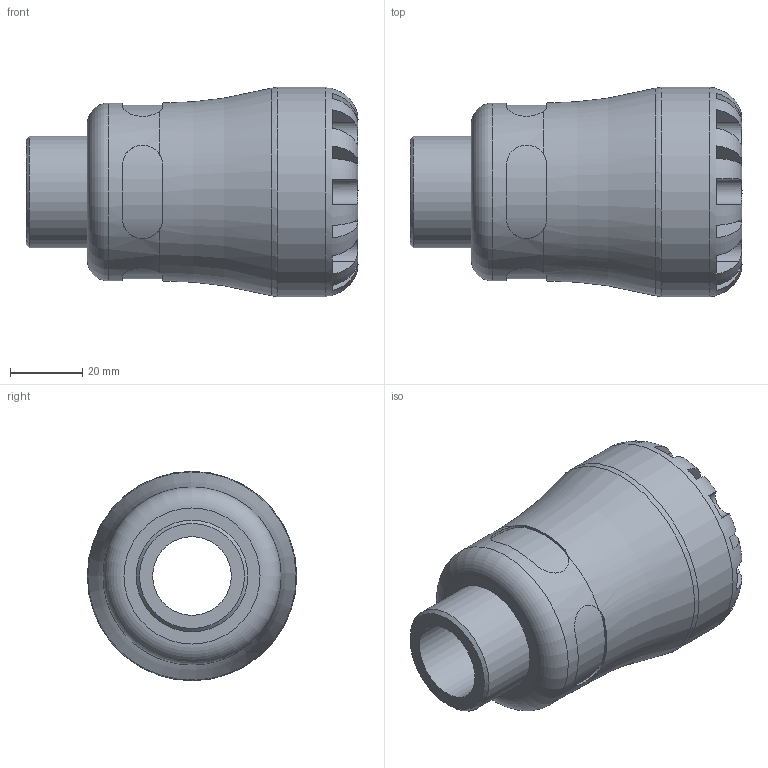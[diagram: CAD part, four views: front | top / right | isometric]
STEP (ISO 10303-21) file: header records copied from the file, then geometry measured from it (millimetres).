
FILE_DESCRIPTION(/* description */ ('PLASSON MALE INTEGRAL BRASS THREAD 32X1" SERIES 1'),/* implementation_level */ '2;1');
FILE_NAME(/* name */ 'C:\Dropbox\KIMPROJECTS-Inventor\99-16-3568-Processing\1072\107200032010_197200032010.ipt.stp',/* time_stamp */ '2017-01-22T10:48:53+02:00',/* author */ ('KIM'),/* organization */ (''),/* preprocessor_version */ 'ST-DEVELOPER v15.6',/* originating_system */ 'Autodesk Inventor 2015',/* authorisation */ '');
FILE_SCHEMA (('AUTOMOTIVE_DESIGN { 1 0 10303 214 3 1 1 }'));
Length unit declared in the file: millimetre
Products named in the file (1): 107200032010_197200032010
Bounding box: 92 x 58 x 58 mm (x, y, z)
Volume: 114303.3 mm3; surface area: 26583 mm2
Topology: 1 solids, 1 shells, 99 faces, 255 edges, 160 vertices
Faces by surface type: plane 60, cylinder 33, torus 4, cone 2
Full cylindrical faces by diameter (mm): 21.788 x1, 30.931 x1, 32 x1, 49.3 x1, 58 x1
Entity records: 3893 total; most frequent: CARTESIAN_POINT 1492, ORIENTED_EDGE 482, DIRECTION 458, EDGE_CURVE 241, AXIS2_PLACEMENT_3D 189, VERTEX_POINT 157, EDGE_LOOP 114, STYLED_ITEM 100
